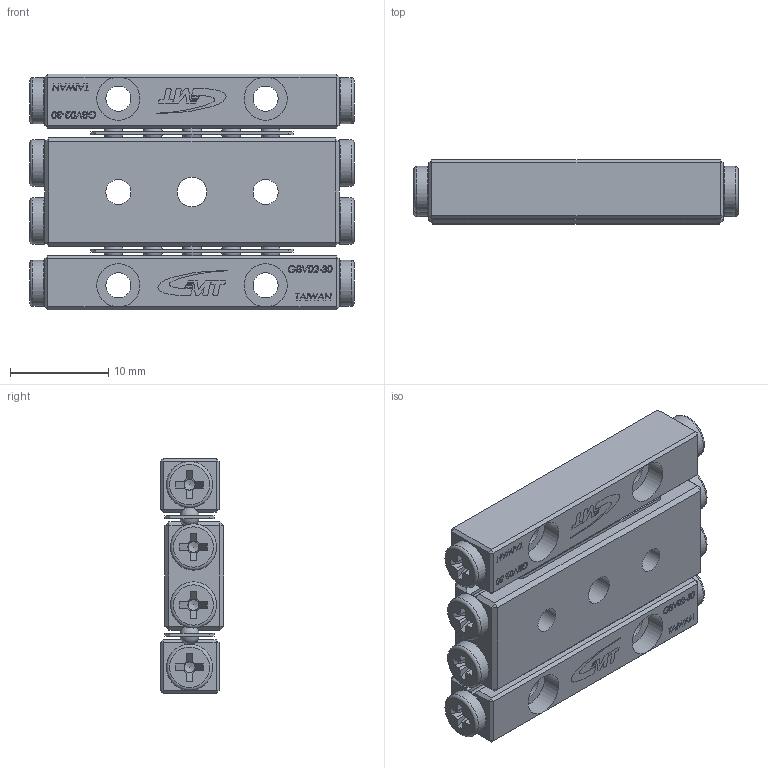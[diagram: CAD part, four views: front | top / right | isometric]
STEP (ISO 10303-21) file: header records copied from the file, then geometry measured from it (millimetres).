
FILE_DESCRIPTION (( 'STEP AP203' ), '1' );
FILE_NAME ('GBD02-30.STEP', '2023-09-20T03:00:47', ( '' ), ( '' ), 'SwSTEP 2.0', 'SolidWorks 2019', '' );
FILE_SCHEMA (( 'CONFIG_CONTROL_DESIGN' ));
Length unit declared in the file: millimetre
Products named in the file (4): GBV02-30-模糊化軌道; GBD02-30; GBV02-30-模糊化保持器組; GBD02-30-模糊化中軌
Assembly tree (5 placements, depth 2):
  GBD02-30
    GBD02-30-模糊化中軌
    GBV02-30-模糊化軌道  x2
    GBV02-30-模糊化保持器組  x2
Bounding box: 33 x 6.5 x 24 mm (x, y, z)
Volume: 3710.9 mm3; surface area: 3840.7 mm2
Topology: 5 solids, 5 shells, 1074 faces, 2682 edges, 1716 vertices
Faces by surface type: plane 734, bspline 207, cone 72, cylinder 25, sphere 20, torus 16
Full cylindrical faces by diameter (mm): 2.55 x6, 3 x1, 4.4 x6, 4.7 x8
Entity records: 29543 total; most frequent: CARTESIAN_POINT 12788, ORIENTED_EDGE 3582, DIRECTION 2813, EDGE_CURVE 1791, LINE 1235, VECTOR 1235, VERTEX_POINT 1156, EDGE_LOOP 843
